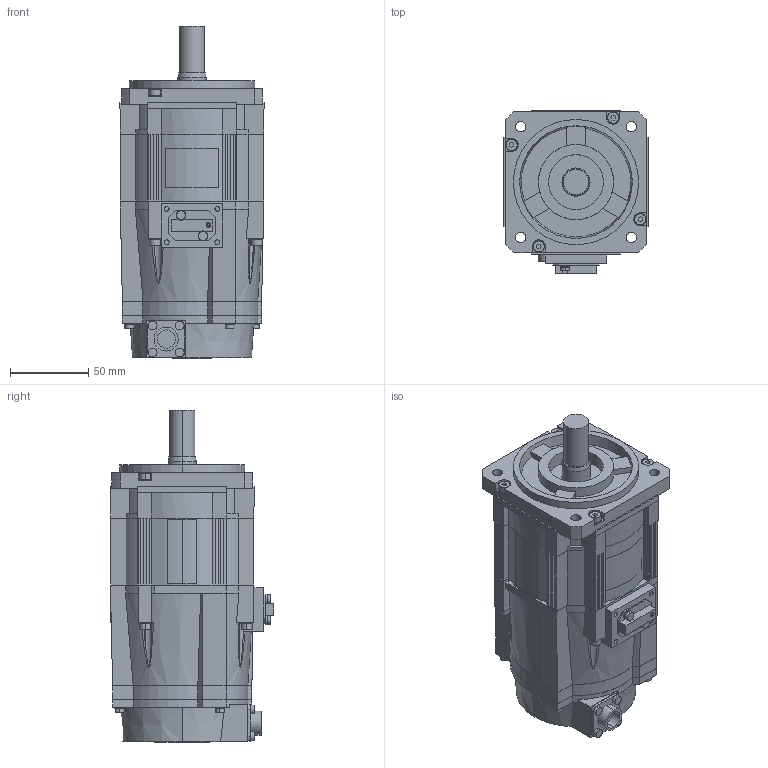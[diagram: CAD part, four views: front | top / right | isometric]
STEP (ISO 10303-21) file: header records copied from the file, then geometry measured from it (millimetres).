
FILE_DESCRIPTION (( 'STEP AP203' ), '1' );
FILE_NAME ('sgm7g_05__a2c.STEP', '2014-05-07T05:06:45', ( '匠エンジニアリング山之内' ), ( 'TAKUMI-Engniaring' ), 'SwSTEP 2.0', 'SolidWorks 2006303', '' );
FILE_SCHEMA (( 'CONFIG_CONTROL_DESIGN' ));
Length unit declared in the file: millimetre
Products named in the file (1): sgm7g_05__a2c
Bounding box: 92 x 104.5 x 212.1 mm (x, y, z)
Volume: 1152363.9 mm3; surface area: 97267.8 mm2
Topology: 1 solids, 1 shells, 630 faces, 1577 edges, 1019 vertices
Faces by surface type: plane 433, cylinder 172, cone 21, bspline 4
Entity records: 19833 total; most frequent: CARTESIAN_POINT 4412, DIRECTION 3193, ORIENTED_EDGE 3154, EDGE_CURVE 1577, VECTOR 1103, LINE 1103, AXIS2_PLACEMENT_3D 1045, VERTEX_POINT 1019
